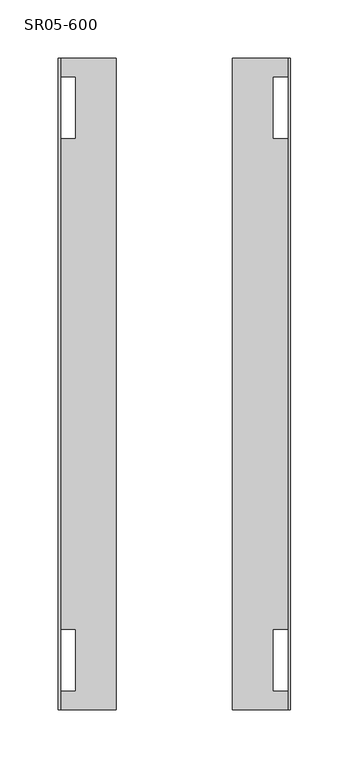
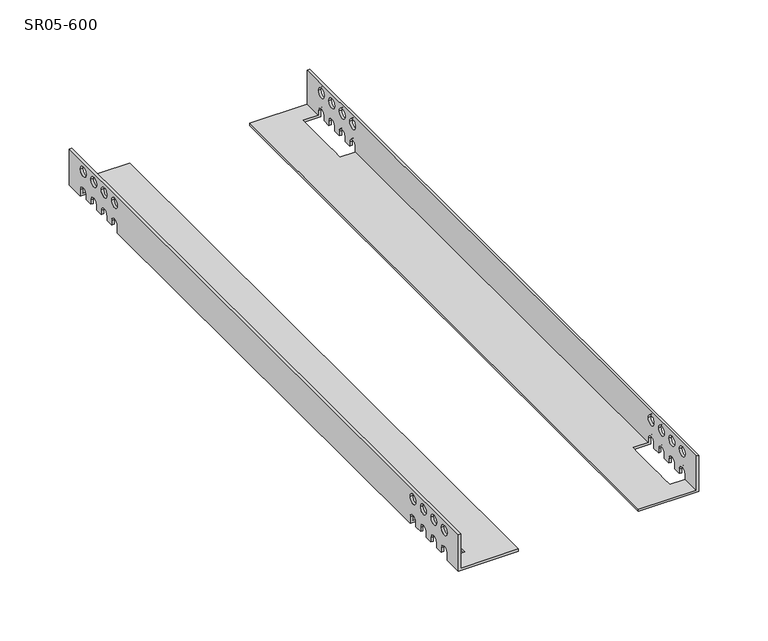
"""IFC4 building model written with IfcOpenShell, lengths in millimetres: proxy geometry, Уголки : SR05-600."""

from ifc_helpers import new_model, si_unit, frame, origin, place, context, project, spatial, polyline, circle_curve, source, transform, mapped, element, save
from ifc_brep_helpers import plane_surface, revolved_surface, advanced_brep


def sr05_600_75813493(model_context):
    return source(origin(), model_context, "Body", "AdvancedBrep", [
        advanced_brep(
        [(-98.0, -280.0, 32.0), (-100.0, -280.0, 32.0), (-100.0, -280.0, 0.0), (-50.0, -280.0, 0.0), (-50.0, -280.0, 2.0), (-98.0, -280.0, 2.0), (-98.0, 280.0, 32.0), (-98.0, 280.0, 2.0), (-50.0, 280.0, 2.0), (-50.0, 280.0, 0.0), (-100.0, 280.0, 0.0), (-100.0, 280.0, 32.0), (-100.0, 264.1733431, 0.0), (-100.0, 264.1733431, 5.925008), (-100.0, 255.8266569, 5.925008), (-100.0, 255.8266569, 2.0), (-100.0, 249.1733431, 2.0), (-100.0, 249.1733431, 5.925008), (-100.0, 240.8266569, 5.925008), (-100.0, 240.8266569, 2.0), (-100.0, 234.1733431, 2.0), (-100.0, 234.1733431, 5.925008), (-100.0, 225.8266569, 5.925008), (-100.0, 225.8266569, 2.0), (-100.0, 219.1733431, 2.0), (-100.0, 219.1733431, 5.925008), (-100.0, 210.8266569, 5.925008), (-100.0, 210.8266569, 0.0), (-100.0, -210.8266569, 0.0), (-100.0, -210.8266569, 5.925008), (-100.0, -219.1733431, 5.925008), (-100.0, -219.1733431, 2.0), (-100.0, -225.8266569, 2.0), (-100.0, -225.8266569, 5.925008), (-100.0, -234.1733431, 5.925008), (-100.0, -234.1733431, 2.0), (-100.0, -240.8266569, 2.0), (-100.0, -240.8266569, 5.925008), (-100.0, -249.1733431, 5.925008), (-100.0, -249.1733431, 2.0), (-100.0, -255.8266569, 2.0), (-100.0, -255.8266569, 5.925008), (-100.0, -264.1733431, 5.925008), (-100.0, -264.1733431, 0.0), (-100.0, -249.1733431, 24.0), (-100.0, -240.8266569, 24.0), (-100.0, -264.1733431, 24.0), (-100.0, -255.8266569, 24.0), (-100.0, -234.1733431, 24.0), (-100.0, -225.8266569, 24.0), (-100.0, -219.1733431, 24.0), (-100.0, -210.8266569, 24.0), (-100.0, 240.8266569, 24.0), (-100.0, 249.1733431, 24.0), (-100.0, 255.8266569, 24.0), (-100.0, 264.1733431, 24.0), (-100.0, 225.8266569, 24.0), (-100.0, 234.1733431, 24.0), (-100.0, 210.8266569, 24.0), (-100.0, 219.1733431, 24.0), (-85.0, -264.1733431, 0.0), (-85.0, -210.8266569, 0.0), (-85.0, 210.8266569, 0.0), (-85.0, 264.1733431, 0.0), (-98.0, 264.1733431, 2.0), (-85.0, 264.1733431, 2.0), (-85.0, 255.8266569, 2.0), (-85.0, 249.1733431, 2.0), (-85.0, 240.8266569, 2.0), (-85.0, 234.1733431, 2.0), (-85.0, 225.8266569, 2.0), (-85.0, 219.1733431, 2.0), (-85.0, 210.8266569, 2.0), (-98.0, 210.8266569, 2.0), (-98.0, -210.8266569, 2.0), (-85.0, -210.8266569, 2.0), (-85.0, -219.1733431, 2.0), (-85.0, -225.8266569, 2.0), (-85.0, -234.1733431, 2.0), (-85.0, -240.8266569, 2.0), (-85.0, -249.1733431, 2.0), (-85.0, -255.8266569, 2.0), (-85.0, -264.1733431, 2.0), (-98.0, -264.1733431, 2.0), (-98.0, -264.1733431, 5.925008), (-98.0, -255.8266569, 5.925008), (-98.0, -255.8266569, 2.0), (-98.0, -249.1733431, 2.0), (-98.0, -249.1733431, 5.925008), (-98.0, -240.8266569, 5.925008), (-98.0, -240.8266569, 2.0), (-98.0, -234.1733431, 2.0), (-98.0, -234.1733431, 5.925008), (-98.0, -225.8266569, 5.925008), (-98.0, -225.8266569, 2.0), (-98.0, -219.1733431, 2.0), (-98.0, -219.1733431, 5.925008), (-98.0, -210.8266569, 5.925008), (-98.0, 210.8266569, 5.925008), (-98.0, 219.1733431, 5.925008), (-98.0, 219.1733431, 2.0), (-98.0, 225.8266569, 2.0), (-98.0, 225.8266569, 5.925008), (-98.0, 234.1733431, 5.925008), (-98.0, 234.1733431, 2.0), (-98.0, 240.8266569, 2.0), (-98.0, 240.8266569, 5.925008), (-98.0, 249.1733431, 5.925008), (-98.0, 249.1733431, 2.0), (-98.0, 255.8266569, 2.0), (-98.0, 255.8266569, 5.925008), (-98.0, 264.1733431, 5.925008), (-98.0, -240.8266569, 24.0), (-98.0, -249.1733431, 24.0), (-98.0, -255.8266569, 24.0), (-98.0, -264.1733431, 24.0), (-98.0, -225.8266569, 24.0), (-98.0, -234.1733431, 24.0), (-98.0, -210.8266569, 24.0), (-98.0, -219.1733431, 24.0), (-98.0, 249.1733431, 24.0), (-98.0, 240.8266569, 24.0), (-98.0, 264.1733431, 24.0), (-98.0, 255.8266569, 24.0), (-98.0, 234.1733431, 24.0), (-98.0, 225.8266569, 24.0), (-98.0, 219.1733431, 24.0), (-98.0, 210.8266569, 24.0)],
        [
            (0, 1),
            (1, 2),
            (2, 3),
            (3, 4),
            (4, 5),
            (5, 0),
            (6, 7),
            (7, 8),
            (8, 9),
            (9, 10),
            (10, 11),
            (11, 6),
            (0, 6),
            (11, 1),
            (10, 12),
            (12, 13),
            (13, 14, circle_curve(frame((-100.0, 260.0, 5.925008), z_axis=(1.0, 0.0, 0.0), x_axis=(0.0, -1.0, 0.0)), 4.1733431)),
            (14, 15),
            (15, 16),
            (16, 17),
            (17, 18, circle_curve(frame((-100.0, 245.0, 5.925008), z_axis=(1.0, 0.0, 0.0), x_axis=(0.0, -1.0, 0.0)), 4.1733431)),
            (18, 19),
            (19, 20),
            (20, 21),
            (21, 22, circle_curve(frame((-100.0, 230.0, 5.925008), z_axis=(1.0, 0.0, 0.0), x_axis=(0.0, -1.0, 0.0)), 4.1733431)),
            (22, 23),
            (23, 24),
            (24, 25),
            (25, 26, circle_curve(frame((-100.0, 215.0, 5.925008), z_axis=(1.0, 0.0, 0.0), x_axis=(0.0, -1.0, 0.0)), 4.1733431)),
            (26, 27),
            (27, 28),
            (28, 29),
            (29, 30, circle_curve(frame((-100.0, -215.0, 5.925008), z_axis=(1.0, 0.0, 0.0), x_axis=(0.0, -1.0, 0.0)), 4.1733431)),
            (30, 31),
            (31, 32),
            (32, 33),
            (33, 34, circle_curve(frame((-100.0, -230.0, 5.925008), z_axis=(1.0, 0.0, 0.0), x_axis=(0.0, -1.0, 0.0)), 4.1733431)),
            (34, 35),
            (35, 36),
            (36, 37),
            (37, 38, circle_curve(frame((-100.0, -245.0, 5.925008), z_axis=(1.0, 0.0, 0.0), x_axis=(0.0, -1.0, 0.0)), 4.1733431)),
            (38, 39),
            (39, 40),
            (40, 41),
            (41, 42, circle_curve(frame((-100.0, -260.0, 5.925008), z_axis=(1.0, 0.0, 0.0), x_axis=(0.0, -1.0, 0.0)), 4.1733431)),
            (42, 43),
            (43, 2),
            (44, 45, circle_curve(frame((-100.0, -245.0, 24.0), z_axis=(1.0, 0.0, 0.0), x_axis=(0.0, -1.0, 0.0)), 4.1733431)),
            (45, 44, circle_curve(frame((-100.0, -245.0, 24.0), z_axis=(1.0, 0.0, 0.0), x_axis=(0.0, -1.0, 0.0)), 4.1733431)),
            (46, 47, circle_curve(frame((-100.0, -260.0, 24.0), z_axis=(1.0, 0.0, 0.0), x_axis=(0.0, -1.0, 0.0)), 4.1733431)),
            (47, 46, circle_curve(frame((-100.0, -260.0, 24.0), z_axis=(1.0, 0.0, 0.0), x_axis=(0.0, -1.0, 0.0)), 4.1733431)),
            (48, 49, circle_curve(frame((-100.0, -230.0, 24.0), z_axis=(1.0, 0.0, 0.0), x_axis=(0.0, -1.0, 0.0)), 4.1733431)),
            (49, 48, circle_curve(frame((-100.0, -230.0, 24.0), z_axis=(1.0, 0.0, 0.0), x_axis=(0.0, -1.0, 0.0)), 4.1733431)),
            (50, 51, circle_curve(frame((-100.0, -215.0, 24.0), z_axis=(1.0, 0.0, 0.0), x_axis=(0.0, -1.0, 0.0)), 4.1733431)),
            (51, 50, circle_curve(frame((-100.0, -215.0, 24.0), z_axis=(1.0, 0.0, 0.0), x_axis=(0.0, -1.0, 0.0)), 4.1733431)),
            (52, 53, circle_curve(frame((-100.0, 245.0, 24.0), z_axis=(1.0, 0.0, 0.0), x_axis=(0.0, -1.0, 0.0)), 4.1733431)),
            (53, 52, circle_curve(frame((-100.0, 245.0, 24.0), z_axis=(1.0, 0.0, 0.0), x_axis=(0.0, -1.0, 0.0)), 4.1733431)),
            (54, 55, circle_curve(frame((-100.0, 260.0, 24.0), z_axis=(1.0, 0.0, 0.0), x_axis=(0.0, -1.0, 0.0)), 4.1733431)),
            (55, 54, circle_curve(frame((-100.0, 260.0, 24.0), z_axis=(1.0, 0.0, 0.0), x_axis=(0.0, -1.0, 0.0)), 4.1733431)),
            (56, 57, circle_curve(frame((-100.0, 230.0, 24.0), z_axis=(1.0, 0.0, 0.0), x_axis=(0.0, -1.0, 0.0)), 4.1733431)),
            (57, 56, circle_curve(frame((-100.0, 230.0, 24.0), z_axis=(1.0, 0.0, 0.0), x_axis=(0.0, -1.0, 0.0)), 4.1733431)),
            (58, 59, circle_curve(frame((-100.0, 215.0, 24.0), z_axis=(1.0, 0.0, 0.0), x_axis=(0.0, -1.0, 0.0)), 4.1733431)),
            (59, 58, circle_curve(frame((-100.0, 215.0, 24.0), z_axis=(1.0, 0.0, 0.0), x_axis=(0.0, -1.0, 0.0)), 4.1733431)),
            (43, 60),
            (60, 61),
            (61, 28),
            (27, 62),
            (62, 63),
            (63, 12),
            (9, 3),
            (8, 4),
            (7, 64),
            (64, 65),
            (65, 66),
            (66, 67),
            (67, 68),
            (68, 69),
            (69, 70),
            (70, 71),
            (71, 72),
            (72, 73),
            (73, 74),
            (74, 75),
            (75, 76),
            (76, 77),
            (77, 78),
            (78, 79),
            (79, 80),
            (80, 81),
            (81, 82),
            (82, 83),
            (83, 5),
            (83, 84),
            (84, 85, circle_curve(frame((-98.0, -260.0, 5.925008), z_axis=(-1.0, 0.0, 0.0), x_axis=(0.0, -1.0, 0.0)), 4.1733431)),
            (85, 86),
            (86, 87),
            (87, 88),
            (88, 89, circle_curve(frame((-98.0, -245.0, 5.925008), z_axis=(-1.0, 0.0, 0.0), x_axis=(0.0, -1.0, 0.0)), 4.1733431)),
            (89, 90),
            (90, 91),
            (91, 92),
            (92, 93, circle_curve(frame((-98.0, -230.0, 5.925008), z_axis=(-1.0, 0.0, 0.0), x_axis=(0.0, -1.0, 0.0)), 4.1733431)),
            (93, 94),
            (94, 95),
            (95, 96),
            (96, 97, circle_curve(frame((-98.0, -215.0, 5.925008), z_axis=(-1.0, 0.0, 0.0), x_axis=(0.0, -1.0, 0.0)), 4.1733431)),
            (97, 74),
            (73, 98),
            (98, 99, circle_curve(frame((-98.0, 215.0, 5.925008), z_axis=(-1.0, 0.0, 0.0), x_axis=(0.0, -1.0, 0.0)), 4.1733431)),
            (99, 100),
            (100, 101),
            (101, 102),
            (102, 103, circle_curve(frame((-98.0, 230.0, 5.925008), z_axis=(-1.0, 0.0, 0.0), x_axis=(0.0, -1.0, 0.0)), 4.1733431)),
            (103, 104),
            (104, 105),
            (105, 106),
            (106, 107, circle_curve(frame((-98.0, 245.0, 5.925008), z_axis=(-1.0, 0.0, 0.0), x_axis=(0.0, -1.0, 0.0)), 4.1733431)),
            (107, 108),
            (108, 109),
            (109, 110),
            (110, 111, circle_curve(frame((-98.0, 260.0, 5.925008), z_axis=(-1.0, 0.0, 0.0), x_axis=(0.0, -1.0, 0.0)), 4.1733431)),
            (111, 64),
            (112, 113, circle_curve(frame((-98.0, -245.0, 24.0), z_axis=(-1.0, 0.0, 0.0), x_axis=(0.0, -1.0, 0.0)), 4.1733431)),
            (113, 112, circle_curve(frame((-98.0, -245.0, 24.0), z_axis=(-1.0, 0.0, 0.0), x_axis=(0.0, -1.0, 0.0)), 4.1733431)),
            (114, 115, circle_curve(frame((-98.0, -260.0, 24.0), z_axis=(-1.0, 0.0, 0.0), x_axis=(0.0, -1.0, 0.0)), 4.1733431)),
            (115, 114, circle_curve(frame((-98.0, -260.0, 24.0), z_axis=(-1.0, 0.0, 0.0), x_axis=(0.0, -1.0, 0.0)), 4.1733431)),
            (116, 117, circle_curve(frame((-98.0, -230.0, 24.0), z_axis=(-1.0, 0.0, 0.0), x_axis=(0.0, -1.0, 0.0)), 4.1733431)),
            (117, 116, circle_curve(frame((-98.0, -230.0, 24.0), z_axis=(-1.0, 0.0, 0.0), x_axis=(0.0, -1.0, 0.0)), 4.1733431)),
            (118, 119, circle_curve(frame((-98.0, -215.0, 24.0), z_axis=(-1.0, 0.0, 0.0), x_axis=(0.0, -1.0, 0.0)), 4.1733431)),
            (119, 118, circle_curve(frame((-98.0, -215.0, 24.0), z_axis=(-1.0, 0.0, 0.0), x_axis=(0.0, -1.0, 0.0)), 4.1733431)),
            (120, 121, circle_curve(frame((-98.0, 245.0, 24.0), z_axis=(-1.0, 0.0, 0.0), x_axis=(0.0, -1.0, 0.0)), 4.1733431)),
            (121, 120, circle_curve(frame((-98.0, 245.0, 24.0), z_axis=(-1.0, 0.0, 0.0), x_axis=(0.0, -1.0, 0.0)), 4.1733431)),
            (122, 123, circle_curve(frame((-98.0, 260.0, 24.0), z_axis=(-1.0, 0.0, 0.0), x_axis=(0.0, -1.0, 0.0)), 4.1733431)),
            (123, 122, circle_curve(frame((-98.0, 260.0, 24.0), z_axis=(-1.0, 0.0, 0.0), x_axis=(0.0, -1.0, 0.0)), 4.1733431)),
            (124, 125, circle_curve(frame((-98.0, 230.0, 24.0), z_axis=(-1.0, 0.0, 0.0), x_axis=(0.0, -1.0, 0.0)), 4.1733431)),
            (125, 124, circle_curve(frame((-98.0, 230.0, 24.0), z_axis=(-1.0, 0.0, 0.0), x_axis=(0.0, -1.0, 0.0)), 4.1733431)),
            (126, 127, circle_curve(frame((-98.0, 215.0, 24.0), z_axis=(-1.0, 0.0, 0.0), x_axis=(0.0, -1.0, 0.0)), 4.1733431)),
            (127, 126, circle_curve(frame((-98.0, 215.0, 24.0), z_axis=(-1.0, 0.0, 0.0), x_axis=(0.0, -1.0, 0.0)), 4.1733431)),
            (75, 61),
            (60, 82),
            (65, 63),
            (62, 72),
            (112, 45),
            (44, 113),
            (114, 47),
            (46, 115),
            (116, 49),
            (48, 117),
            (118, 51),
            (50, 119),
            (120, 53),
            (52, 121),
            (122, 55),
            (54, 123),
            (124, 57),
            (56, 125),
            (126, 59),
            (58, 127),
            (95, 31),
            (30, 96),
            (29, 97),
            (91, 35),
            (34, 92),
            (33, 93),
            (32, 94),
            (87, 39),
            (38, 88),
            (37, 89),
            (36, 90),
            (42, 84),
            (41, 85),
            (40, 86),
            (23, 101),
            (100, 24),
            (22, 102),
            (21, 103),
            (20, 104),
            (19, 105),
            (18, 106),
            (17, 107),
            (16, 108),
            (15, 109),
            (14, 110),
            (13, 111),
            (26, 98),
            (25, 99),
        ],
        [
            plane_surface(frame((-100.0, -280.0, 32.0), z_axis=(0.0, -1.0, 0.0), x_axis=(-1.0, 0.0, 0.0))),
            plane_surface(frame((-100.0, 280.0, 32.0), z_axis=(0.0, 1.0, 0.0), x_axis=(1.0, 0.0, 0.0))),
            plane_surface(frame((-98.0, -280.0, 32.0), z_axis=(0.0, 0.0, 1.0), x_axis=(0.0, 1.0, 0.0))),
            plane_surface(frame((-100.0, -280.0, 32.0), z_axis=(-1.0, 0.0, 0.0), x_axis=(0.0, 1.0, 0.0))),
            plane_surface(frame((-100.0, -280.0, 0.0), z_axis=(0.0, 0.0, -1.0), x_axis=(0.0, 1.0, 0.0))),
            plane_surface(frame((-50.0, -280.0, 0.0), z_axis=(1.0, 0.0, 0.0), x_axis=(0.0, 1.0, 0.0))),
            plane_surface(frame((-50.0, -280.0, 2.0), z_axis=(0.0, 0.0, 1.0), x_axis=(0.0, 1.0, 0.0))),
            plane_surface(frame((-98.0, -280.0, 2.0), z_axis=(1.0, 0.0, 0.0), x_axis=(0.0, 1.0, 0.0))),
            plane_surface(frame((-85.0, -249.1733431, 24.0), z_axis=(-1.0, 0.0, 0.0), x_axis=(0.0, 0.0, -1.0))),
            revolved_surface(polyline([(-100.0, -249.1733431, 24.0), (-98.0, -249.1733431, 24.0)]), (-85.0, -245.0, 24.0), (-1.0, 0.0, 0.0)),
            revolved_surface(polyline([(-100.0, -264.1733431, 24.0), (-98.0, -264.1733431, 24.0)]), (-100.0, -260.0, 24.0), (-1.0, 0.0, 0.0)),
            revolved_surface(polyline([(-100.0, -234.1733431, 24.0), (-98.0, -234.1733431, 24.0)]), (-100.0, -230.0, 24.0), (-1.0, 0.0, 0.0)),
            revolved_surface(polyline([(-100.0, -219.1733431, 24.0), (-98.0, -219.1733431, 24.0)]), (-100.0, -215.0, 24.0), (-1.0, 0.0, 0.0)),
            revolved_surface(polyline([(-100.0, 240.8266569, 24.0), (-98.0, 240.8266569, 24.0)]), (-100.0, 245.0, 24.0), (-1.0, 0.0, 0.0)),
            revolved_surface(polyline([(-100.0, 255.8266569, 24.0), (-98.0, 255.8266569, 24.0)]), (-100.0, 260.0, 24.0), (-1.0, 0.0, 0.0)),
            revolved_surface(polyline([(-100.0, 225.8266569, 24.0), (-98.0, 225.8266569, 24.0)]), (-100.0, 230.0, 24.0), (-1.0, 0.0, 0.0)),
            revolved_surface(polyline([(-100.0, 210.8266569, 24.0), (-98.0, 210.8266569, 24.0)]), (-100.0, 215.0, 24.0), (-1.0, 0.0, 0.0)),
            plane_surface(frame((-100.0, -219.1733431, 2.0), z_axis=(0.0, 1.0, 0.0), x_axis=(1.0, 0.0, 0.0))),
            revolved_surface(polyline([(-100.0, -219.1733431, 5.925008), (-98.0, -219.1733431, 5.925008)]), (-100.0, -215.0, 5.925008), (-1.0, 0.0, 0.0)),
            plane_surface(frame((-100.0, -210.8266569, 5.925008), z_axis=(0.0, -1.0, 0.0), x_axis=(1.0, 0.0, 0.0))),
            plane_surface(frame((-100.0, -234.1733431, 2.0), z_axis=(0.0, 1.0, 0.0), x_axis=(1.0, 0.0, 0.0))),
            revolved_surface(polyline([(-100.0, -234.1733431, 5.925008), (-98.0, -234.1733431, 5.925008)]), (-100.0, -230.0, 5.925008), (-1.0, 0.0, 0.0)),
            plane_surface(frame((-100.0, -225.8266569, 5.925008), z_axis=(0.0, -1.0, 0.0), x_axis=(1.0, 0.0, 0.0))),
            plane_surface(frame((-100.0, -225.8266569, 2.0), z_axis=(0.0, 0.0, -1.0), x_axis=(1.0, 0.0, 0.0))),
            plane_surface(frame((-100.0, -249.1733431, 2.0), z_axis=(0.0, 1.0, 1.2673657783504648e-11), x_axis=(1.0, 0.0, 0.0))),
            revolved_surface(polyline([(-100.0, -249.1733431, 5.925008), (-98.0, -249.1733431, 5.925008)]), (-100.0, -245.0, 5.925008), (-1.0, 0.0, 0.0)),
            plane_surface(frame((-100.0, -240.8266569, 5.925008), z_axis=(0.0, -1.0, 0.0), x_axis=(1.0, 0.0, 0.0))),
            plane_surface(frame((-100.0, -240.8266569, 2.0), z_axis=(0.0, 0.0, -1.0), x_axis=(1.0, 0.0, 0.0))),
            plane_surface(frame((-100.0, -264.1733431, 0.0), z_axis=(0.0, 1.0, 0.0), x_axis=(1.0, 0.0, 0.0))),
            revolved_surface(polyline([(-100.0, -264.1733431, 5.925008), (-98.0, -264.1733431, 5.925008)]), (-100.0, -260.0, 5.925008), (-1.0, 0.0, 0.0)),
            plane_surface(frame((-100.0, -255.8266569, 5.925008), z_axis=(0.0, -1.0, 0.0), x_axis=(1.0, 0.0, 0.0))),
            plane_surface(frame((-100.0, -255.8266569, 2.0), z_axis=(0.0, 0.0, -1.0), x_axis=(1.0, 0.0, 0.0))),
            plane_surface(frame((-100.0, 219.1733431, 2.0), z_axis=(0.0, 0.0, -1.0), x_axis=(1.0, 0.0, 0.0))),
            plane_surface(frame((-100.0, 225.8266569, 2.0), z_axis=(0.0, 1.0, 0.0), x_axis=(1.0, 0.0, 0.0))),
            revolved_surface(polyline([(-100.0, 225.8266569, 5.925008), (-98.0, 225.8266569, 5.925008)]), (-100.0, 230.0, 5.925008), (-1.0, 0.0, 0.0)),
            plane_surface(frame((-100.0, 234.1733431, 5.925008), z_axis=(0.0, -1.0, 0.0), x_axis=(1.0, 0.0, 0.0))),
            plane_surface(frame((-100.0, 234.1733431, 2.0), z_axis=(0.0, 0.0, -1.0), x_axis=(1.0, 0.0, 0.0))),
            plane_surface(frame((-100.0, 240.8266569, 2.0), z_axis=(0.0, 1.0, 0.0), x_axis=(1.0, 0.0, 0.0))),
            revolved_surface(polyline([(-100.0, 240.8266569, 5.925008), (-98.0, 240.8266569, 5.925008)]), (-100.0, 245.0, 5.925008), (-1.0, 0.0, 0.0)),
            plane_surface(frame((-100.0, 249.1733431, 5.925008), z_axis=(0.0, -1.0, -5.586755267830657e-12), x_axis=(1.0, 0.0, 0.0))),
            plane_surface(frame((-100.0, 249.1733431, 2.0), z_axis=(0.0, 0.0, -1.0), x_axis=(1.0, 0.0, 0.0))),
            plane_surface(frame((-100.0, 255.8266569, 2.0), z_axis=(0.0, 1.0, 0.0), x_axis=(1.0, 0.0, 0.0))),
            revolved_surface(polyline([(-100.0, 255.8266569, 5.925008), (-98.0, 255.8266569, 5.925008)]), (-100.0, 260.0, 5.925008), (-1.0, 0.0, 0.0)),
            plane_surface(frame((-100.0, 264.1733431, 5.925008), z_axis=(0.0, -1.0, 0.0), x_axis=(1.0, 0.0, 0.0))),
            plane_surface(frame((-100.0, 210.8266569, 0.0), z_axis=(0.0, 1.0, 0.0), x_axis=(1.0, 0.0, 0.0))),
            revolved_surface(polyline([(-100.0, 210.8266569, 5.925008), (-98.0, 210.8266569, 5.925008)]), (-100.0, 215.0, 5.925008), (-1.0, 0.0, 0.0)),
            plane_surface(frame((-100.0, 219.1733431, 5.925008), z_axis=(0.0, -1.0, 0.0), x_axis=(1.0, 0.0, 0.0))),
        ],
        [
            (0, [[1, 2, 3, 4, 5, 6]]),
            (1, [[7, 8, 9, 10, 11, 12]]),
            (2, [[-1, 13, -12, 14]]),
            (3, [[-2, -14, -11, 15, 16, 17, 18, 19, 20, 21, 22, 23, 24, 25, 26, 27, 28, 29, 30, 31, 32, 33, 34, 35, 36, 37, 38, 39, 40, 41, 42, 43, 44, 45, 46, 47], [48, 49], [50, 51], [52, 53], [54, 55], [56, 57], [58, 59], [60, 61], [62, 63]]),
            (4, [[-3, -47, 64, 65, 66, -31, 67, 68, 69, -15, -10, 70]]),
            (5, [[-4, -70, -9, 71]]),
            (6, [[-5, -71, -8, 72, 73, 74, 75, 76, 77, 78, 79, 80, 81, 82, 83, 84, 85, 86, 87, 88, 89, 90, 91, 92]]),
            (7, [[-6, -92, 93, 94, 95, 96, 97, 98, 99, 100, 101, 102, 103, 104, 105, 106, 107, -82, 108, 109, 110, 111, 112, 113, 114, 115, 116, 117, 118, 119, 120, 121, 122, -72, -7, -13], [123, 124], [125, 126], [127, 128], [129, 130], [131, 132], [133, 134], [135, 136], [137, 138]]),
            (8, [[139, -65, 140, -90, -89, -88, -87, -86, -85, -84]]),
            (8, [[141, -68, 142, -80, -79, -78, -77, -76, -75, -74]]),
            (9, [[143, -48, 144, -123]]),
            (9, [[-143, -124, -144, -49]]),
            (10, [[145, -50, 146, -125]]),
            (10, [[-145, -126, -146, -51]]),
            (11, [[147, -52, 148, -127]]),
            (11, [[-147, -128, -148, -53]]),
            (12, [[149, -54, 150, -129]]),
            (12, [[-149, -130, -150, -55]]),
            (13, [[151, -56, 152, -131]]),
            (13, [[-151, -132, -152, -57]]),
            (14, [[153, -58, 154, -133]]),
            (14, [[-153, -134, -154, -59]]),
            (15, [[155, -60, 156, -135]]),
            (15, [[-155, -136, -156, -61]]),
            (16, [[157, -62, 158, -137]]),
            (16, [[-157, -138, -158, -63]]),
            (17, [[159, -34, 160, -105]]),
            (18, [[-160, -33, 161, -106]]),
            (19, [[-139, -83, -107, -161, -32, -66]]),
            (20, [[162, -38, 163, -101]]),
            (21, [[-163, -37, 164, -102]]),
            (22, [[165, -103, -164, -36]]),
            (23, [[-159, -104, -165, -35]]),
            (24, [[166, -42, 167, -97]]),
            (25, [[-167, -41, 168, -98]]),
            (26, [[169, -99, -168, -40]]),
            (27, [[-162, -100, -169, -39]]),
            (28, [[-140, -64, -46, 170, -93, -91]]),
            (29, [[-170, -45, 171, -94]]),
            (30, [[172, -95, -171, -44]]),
            (31, [[-166, -96, -172, -43]]),
            (32, [[173, -111, 174, -27]]),
            (33, [[-173, -26, 175, -112]]),
            (34, [[-175, -25, 176, -113]]),
            (35, [[177, -114, -176, -24]]),
            (36, [[-177, -23, 178, -115]]),
            (37, [[-178, -22, 179, -116]]),
            (38, [[-179, -21, 180, -117]]),
            (39, [[181, -118, -180, -20]]),
            (40, [[-181, -19, 182, -119]]),
            (41, [[-182, -18, 183, -120]]),
            (42, [[-183, -17, 184, -121]]),
            (43, [[-141, -73, -122, -184, -16, -69]]),
            (44, [[-142, -67, -30, 185, -108, -81]]),
            (45, [[-185, -29, 186, -109]]),
            (46, [[-174, -110, -186, -28]]),
        ],
    ),
        advanced_brep(
        [(98.0, -280.0, 32.0), (98.0, -280.0, 2.0), (50.0, -280.0, 2.0), (50.0, -280.0, 0.0), (100.0, -280.0, 0.0), (100.0, -280.0, 32.0), (98.0, 280.0, 32.0), (100.0, 280.0, 32.0), (100.0, 280.0, 0.0), (50.0, 280.0, 0.0), (50.0, 280.0, 2.0), (98.0, 280.0, 2.0), (98.0, 264.1733431, 2.0), (98.0, 264.1733431, 5.925008), (98.0, 255.8266569, 5.925008), (98.0, 255.8266569, 2.0), (98.0, 249.1733431, 2.0), (98.0, 249.1733431, 5.925008), (98.0, 240.8266569, 5.925008), (98.0, 240.8266569, 2.0), (98.0, 234.1733431, 2.0), (98.0, 234.1733431, 5.925008), (98.0, 225.8266569, 5.925008), (98.0, 225.8266569, 2.0), (98.0, 219.1733431, 2.0), (98.0, 219.1733431, 5.925008), (98.0, 210.8266569, 5.925008), (98.0, 210.8266569, 2.0), (98.0, -210.8266569, 2.0), (98.0, -210.8266569, 5.925008), (98.0, -219.1733431, 5.925008), (98.0, -219.1733431, 2.0), (98.0, -225.8266569, 2.0), (98.0, -225.8266569, 5.925008), (98.0, -234.1733431, 5.925008), (98.0, -234.1733431, 2.0), (98.0, -240.8266569, 2.0), (98.0, -240.8266569, 5.925008), (98.0, -249.1733431, 5.925008), (98.0, -249.1733431, 2.0), (98.0, -255.8266569, 2.0), (98.0, -255.8266569, 5.925008), (98.0, -264.1733431, 5.925008), (98.0, -264.1733431, 2.0), (98.0, -249.1733431, 24.0), (98.0, -240.8266569, 24.0), (98.0, -264.1733431, 24.0), (98.0, -255.8266569, 24.0), (98.0, -234.1733431, 24.0), (98.0, -225.8266569, 24.0), (98.0, -219.1733431, 24.0), (98.0, -210.8266569, 24.0), (98.0, 240.8266569, 24.0), (98.0, 249.1733431, 24.0), (98.0, 255.8266569, 24.0), (98.0, 264.1733431, 24.0), (98.0, 225.8266569, 24.0), (98.0, 234.1733431, 24.0), (98.0, 210.8266569, 24.0), (98.0, 219.1733431, 24.0), (85.0, -264.1733431, 2.0), (85.0, -255.8266569, 2.0), (85.0, -249.1733431, 2.0), (85.0, -240.8266569, 2.0), (85.0, -234.1733431, 2.0), (85.0, -225.8266569, 2.0), (85.0, -219.1733431, 2.0), (85.0, -210.8266569, 2.0), (85.0, 210.8266569, 2.0), (85.0, 219.1733431, 2.0), (85.0, 225.8266569, 2.0), (85.0, 234.1733431, 2.0), (85.0, 240.8266569, 2.0), (85.0, 249.1733431, 2.0), (85.0, 255.8266569, 2.0), (85.0, 264.1733431, 2.0), (100.0, 264.1733431, 0.0), (85.0, 264.1733431, 0.0), (85.0, 210.8266569, 0.0), (100.0, 210.8266569, 0.0), (100.0, -210.8266569, 0.0), (85.0, -210.8266569, 0.0), (85.0, -264.1733431, 0.0), (100.0, -264.1733431, 0.0), (100.0, -264.1733431, 5.925008), (100.0, -255.8266569, 5.925008), (100.0, -255.8266569, 2.0), (100.0, -249.1733431, 2.0), (100.0, -249.1733431, 5.925008), (100.0, -240.8266569, 5.925008), (100.0, -240.8266569, 2.0), (100.0, -234.1733431, 2.0), (100.0, -234.1733431, 5.925008), (100.0, -225.8266569, 5.925008), (100.0, -225.8266569, 2.0), (100.0, -219.1733431, 2.0), (100.0, -219.1733431, 5.925008), (100.0, -210.8266569, 5.925008), (100.0, 210.8266569, 5.925008), (100.0, 219.1733431, 5.925008), (100.0, 219.1733431, 2.0), (100.0, 225.8266569, 2.0), (100.0, 225.8266569, 5.925008), (100.0, 234.1733431, 5.925008), (100.0, 234.1733431, 2.0), (100.0, 240.8266569, 2.0), (100.0, 240.8266569, 5.925008), (100.0, 249.1733431, 5.925008), (100.0, 249.1733431, 2.0), (100.0, 255.8266569, 2.0), (100.0, 255.8266569, 5.925008), (100.0, 264.1733431, 5.925008), (100.0, -240.8266569, 24.0), (100.0, -249.1733431, 24.0), (100.0, -255.8266569, 24.0), (100.0, -264.1733431, 24.0), (100.0, -225.8266569, 24.0), (100.0, -234.1733431, 24.0), (100.0, -210.8266569, 24.0), (100.0, -219.1733431, 24.0), (100.0, 249.1733431, 24.0), (100.0, 240.8266569, 24.0), (100.0, 264.1733431, 24.0), (100.0, 255.8266569, 24.0), (100.0, 234.1733431, 24.0), (100.0, 225.8266569, 24.0), (100.0, 219.1733431, 24.0), (100.0, 210.8266569, 24.0)],
        [
            (0, 1),
            (1, 2),
            (2, 3),
            (3, 4),
            (4, 5),
            (5, 0),
            (6, 7),
            (7, 8),
            (8, 9),
            (9, 10),
            (10, 11),
            (11, 6),
            (0, 6),
            (11, 12),
            (12, 13),
            (13, 14, circle_curve(frame((98.0, 260.0, 5.925008), z_axis=(1.0, 0.0, 0.0), x_axis=(0.0, -1.0, 0.0)), 4.1733431)),
            (14, 15),
            (15, 16),
            (16, 17),
            (17, 18, circle_curve(frame((98.0, 245.0, 5.925008), z_axis=(1.0, 0.0, 0.0), x_axis=(0.0, -1.0, 0.0)), 4.1733431)),
            (18, 19),
            (19, 20),
            (20, 21),
            (21, 22, circle_curve(frame((98.0, 230.0, 5.925008), z_axis=(1.0, 0.0, 0.0), x_axis=(0.0, -1.0, 0.0)), 4.1733431)),
            (22, 23),
            (23, 24),
            (24, 25),
            (25, 26, circle_curve(frame((98.0, 215.0, 5.925008), z_axis=(1.0, 0.0, 0.0), x_axis=(0.0, -1.0, 0.0)), 4.1733431)),
            (26, 27),
            (27, 28),
            (28, 29),
            (29, 30, circle_curve(frame((98.0, -215.0, 5.925008), z_axis=(1.0, 0.0, 0.0), x_axis=(0.0, -1.0, 0.0)), 4.1733431)),
            (30, 31),
            (31, 32),
            (32, 33),
            (33, 34, circle_curve(frame((98.0, -230.0, 5.925008), z_axis=(1.0, 0.0, 0.0), x_axis=(0.0, -1.0, 0.0)), 4.1733431)),
            (34, 35),
            (35, 36),
            (36, 37),
            (37, 38, circle_curve(frame((98.0, -245.0, 5.925008), z_axis=(1.0, 0.0, 0.0), x_axis=(0.0, -1.0, 0.0)), 4.1733431)),
            (38, 39),
            (39, 40),
            (40, 41),
            (41, 42, circle_curve(frame((98.0, -260.0, 5.925008), z_axis=(1.0, 0.0, 0.0), x_axis=(0.0, -1.0, 0.0)), 4.1733431)),
            (42, 43),
            (43, 1),
            (44, 45, circle_curve(frame((98.0, -245.0, 24.0), z_axis=(1.0, 0.0, 0.0), x_axis=(0.0, -1.0, 0.0)), 4.1733431)),
            (45, 44, circle_curve(frame((98.0, -245.0, 24.0), z_axis=(1.0, 0.0, 0.0), x_axis=(0.0, -1.0, 0.0)), 4.1733431)),
            (46, 47, circle_curve(frame((98.0, -260.0, 24.0), z_axis=(1.0, 0.0, 0.0), x_axis=(0.0, -1.0, 0.0)), 4.1733431)),
            (47, 46, circle_curve(frame((98.0, -260.0, 24.0), z_axis=(1.0, 0.0, 0.0), x_axis=(0.0, -1.0, 0.0)), 4.1733431)),
            (48, 49, circle_curve(frame((98.0, -230.0, 24.0), z_axis=(1.0, 0.0, 0.0), x_axis=(0.0, -1.0, 0.0)), 4.1733431)),
            (49, 48, circle_curve(frame((98.0, -230.0, 24.0), z_axis=(1.0, 0.0, 0.0), x_axis=(0.0, -1.0, 0.0)), 4.1733431)),
            (50, 51, circle_curve(frame((98.0, -215.0, 24.0), z_axis=(1.0, 0.0, 0.0), x_axis=(0.0, -1.0, 0.0)), 4.1733431)),
            (51, 50, circle_curve(frame((98.0, -215.0, 24.0), z_axis=(1.0, 0.0, 0.0), x_axis=(0.0, -1.0, 0.0)), 4.1733431)),
            (52, 53, circle_curve(frame((98.0, 245.0, 24.0), z_axis=(1.0, 0.0, 0.0), x_axis=(0.0, -1.0, 0.0)), 4.1733431)),
            (53, 52, circle_curve(frame((98.0, 245.0, 24.0), z_axis=(1.0, 0.0, 0.0), x_axis=(0.0, -1.0, 0.0)), 4.1733431)),
            (54, 55, circle_curve(frame((98.0, 260.0, 24.0), z_axis=(1.0, 0.0, 0.0), x_axis=(0.0, -1.0, 0.0)), 4.1733431)),
            (55, 54, circle_curve(frame((98.0, 260.0, 24.0), z_axis=(1.0, 0.0, 0.0), x_axis=(0.0, -1.0, 0.0)), 4.1733431)),
            (56, 57, circle_curve(frame((98.0, 230.0, 24.0), z_axis=(1.0, 0.0, 0.0), x_axis=(0.0, -1.0, 0.0)), 4.1733431)),
            (57, 56, circle_curve(frame((98.0, 230.0, 24.0), z_axis=(1.0, 0.0, 0.0), x_axis=(0.0, -1.0, 0.0)), 4.1733431)),
            (58, 59, circle_curve(frame((98.0, 215.0, 24.0), z_axis=(1.0, 0.0, 0.0), x_axis=(0.0, -1.0, 0.0)), 4.1733431)),
            (59, 58, circle_curve(frame((98.0, 215.0, 24.0), z_axis=(1.0, 0.0, 0.0), x_axis=(0.0, -1.0, 0.0)), 4.1733431)),
            (43, 60),
            (60, 61),
            (61, 62),
            (62, 63),
            (63, 64),
            (64, 65),
            (65, 66),
            (66, 67),
            (67, 28),
            (27, 68),
            (68, 69),
            (69, 70),
            (70, 71),
            (71, 72),
            (72, 73),
            (73, 74),
            (74, 75),
            (75, 12),
            (10, 2),
            (9, 3),
            (8, 76),
            (76, 77),
            (77, 78),
            (78, 79),
            (79, 80),
            (80, 81),
            (81, 82),
            (82, 83),
            (83, 4),
            (83, 84),
            (84, 85, circle_curve(frame((100.0, -260.0, 5.925008), z_axis=(-1.0, 0.0, 0.0), x_axis=(0.0, -1.0, 0.0)), 4.1733431)),
            (85, 86),
            (86, 87),
            (87, 88),
            (88, 89, circle_curve(frame((100.0, -245.0, 5.925008), z_axis=(-1.0, 0.0, 0.0), x_axis=(0.0, -1.0, 0.0)), 4.1733431)),
            (89, 90),
            (90, 91),
            (91, 92),
            (92, 93, circle_curve(frame((100.0, -230.0, 5.925008), z_axis=(-1.0, 0.0, 0.0), x_axis=(0.0, -1.0, 0.0)), 4.1733431)),
            (93, 94),
            (94, 95),
            (95, 96),
            (96, 97, circle_curve(frame((100.0, -215.0, 5.925008), z_axis=(-1.0, 0.0, 0.0), x_axis=(0.0, -1.0, 0.0)), 4.1733431)),
            (97, 80),
            (79, 98),
            (98, 99, circle_curve(frame((100.0, 215.0, 5.925008), z_axis=(-1.0, 0.0, 0.0), x_axis=(0.0, -1.0, 0.0)), 4.1733431)),
            (99, 100),
            (100, 101),
            (101, 102),
            (102, 103, circle_curve(frame((100.0, 230.0, 5.925008), z_axis=(-1.0, 0.0, 0.0), x_axis=(0.0, -1.0, 0.0)), 4.1733431)),
            (103, 104),
            (104, 105),
            (105, 106),
            (106, 107, circle_curve(frame((100.0, 245.0, 5.925008), z_axis=(-1.0, 0.0, 0.0), x_axis=(0.0, -1.0, 0.0)), 4.1733431)),
            (107, 108),
            (108, 109),
            (109, 110),
            (110, 111, circle_curve(frame((100.0, 260.0, 5.925008), z_axis=(-1.0, 0.0, 0.0), x_axis=(0.0, -1.0, 0.0)), 4.1733431)),
            (111, 76),
            (7, 5),
            (112, 113, circle_curve(frame((100.0, -245.0, 24.0), z_axis=(-1.0, 0.0, 0.0), x_axis=(0.0, -1.0, 0.0)), 4.1733431)),
            (113, 112, circle_curve(frame((100.0, -245.0, 24.0), z_axis=(-1.0, 0.0, 0.0), x_axis=(0.0, -1.0, 0.0)), 4.1733431)),
            (114, 115, circle_curve(frame((100.0, -260.0, 24.0), z_axis=(-1.0, 0.0, 0.0), x_axis=(0.0, -1.0, 0.0)), 4.1733431)),
            (115, 114, circle_curve(frame((100.0, -260.0, 24.0), z_axis=(-1.0, 0.0, 0.0), x_axis=(0.0, -1.0, 0.0)), 4.1733431)),
            (116, 117, circle_curve(frame((100.0, -230.0, 24.0), z_axis=(-1.0, 0.0, 0.0), x_axis=(0.0, -1.0, 0.0)), 4.1733431)),
            (117, 116, circle_curve(frame((100.0, -230.0, 24.0), z_axis=(-1.0, 0.0, 0.0), x_axis=(0.0, -1.0, 0.0)), 4.1733431)),
            (118, 119, circle_curve(frame((100.0, -215.0, 24.0), z_axis=(-1.0, 0.0, 0.0), x_axis=(0.0, -1.0, 0.0)), 4.1733431)),
            (119, 118, circle_curve(frame((100.0, -215.0, 24.0), z_axis=(-1.0, 0.0, 0.0), x_axis=(0.0, -1.0, 0.0)), 4.1733431)),
            (120, 121, circle_curve(frame((100.0, 245.0, 24.0), z_axis=(-1.0, 0.0, 0.0), x_axis=(0.0, -1.0, 0.0)), 4.1733431)),
            (121, 120, circle_curve(frame((100.0, 245.0, 24.0), z_axis=(-1.0, 0.0, 0.0), x_axis=(0.0, -1.0, 0.0)), 4.1733431)),
            (122, 123, circle_curve(frame((100.0, 260.0, 24.0), z_axis=(-1.0, 0.0, 0.0), x_axis=(0.0, -1.0, 0.0)), 4.1733431)),
            (123, 122, circle_curve(frame((100.0, 260.0, 24.0), z_axis=(-1.0, 0.0, 0.0), x_axis=(0.0, -1.0, 0.0)), 4.1733431)),
            (124, 125, circle_curve(frame((100.0, 230.0, 24.0), z_axis=(-1.0, 0.0, 0.0), x_axis=(0.0, -1.0, 0.0)), 4.1733431)),
            (125, 124, circle_curve(frame((100.0, 230.0, 24.0), z_axis=(-1.0, 0.0, 0.0), x_axis=(0.0, -1.0, 0.0)), 4.1733431)),
            (126, 127, circle_curve(frame((100.0, 215.0, 24.0), z_axis=(-1.0, 0.0, 0.0), x_axis=(0.0, -1.0, 0.0)), 4.1733431)),
            (127, 126, circle_curve(frame((100.0, 215.0, 24.0), z_axis=(-1.0, 0.0, 0.0), x_axis=(0.0, -1.0, 0.0)), 4.1733431)),
            (68, 78),
            (77, 75),
            (60, 82),
            (81, 67),
            (44, 113),
            (112, 45),
            (46, 115),
            (114, 47),
            (48, 117),
            (116, 49),
            (50, 119),
            (118, 51),
            (52, 121),
            (120, 53),
            (54, 123),
            (122, 55),
            (56, 125),
            (124, 57),
            (58, 127),
            (126, 59),
            (95, 31),
            (30, 96),
            (29, 97),
            (91, 35),
            (34, 92),
            (33, 93),
            (32, 94),
            (87, 39),
            (38, 88),
            (37, 89),
            (36, 90),
            (42, 84),
            (41, 85),
            (40, 86),
            (23, 101),
            (100, 24),
            (22, 102),
            (21, 103),
            (20, 104),
            (19, 105),
            (18, 106),
            (17, 107),
            (16, 108),
            (15, 109),
            (14, 110),
            (13, 111),
            (26, 98),
            (25, 99),
        ],
        [
            plane_surface(frame((-100.0, -280.0, 32.0), z_axis=(0.0, -1.0, 0.0), x_axis=(-1.0, 0.0, 0.0))),
            plane_surface(frame((-100.0, 280.0, 32.0), z_axis=(0.0, 1.0, 0.0), x_axis=(1.0, 0.0, 0.0))),
            plane_surface(frame((98.0, -280.0, 32.0), z_axis=(-1.0, 0.0, 0.0), x_axis=(0.0, 1.0, 0.0))),
            plane_surface(frame((98.0, -280.0, 2.0), z_axis=(0.0, 0.0, 1.0), x_axis=(0.0, 1.0, 0.0))),
            plane_surface(frame((50.0, -280.0, 2.0), z_axis=(-1.0, 0.0, 0.0), x_axis=(0.0, 1.0, 0.0))),
            plane_surface(frame((50.0, -280.0, 0.0), z_axis=(0.0, 0.0, -1.0), x_axis=(0.0, 1.0, 0.0))),
            plane_surface(frame((100.0, -280.0, 0.0), z_axis=(1.0, 0.0, 0.0), x_axis=(0.0, 1.0, 0.0))),
            plane_surface(frame((100.0, -280.0, 32.0), z_axis=(0.0, 0.0, 1.0), x_axis=(0.0, 1.0, 0.0))),
            plane_surface(frame((85.0, -249.1733431, 24.0), z_axis=(1.0, 0.0, 0.0), x_axis=(0.0, 0.0, 1.0))),
            revolved_surface(polyline([(100.0, -249.1733431, 24.0), (98.0, -249.1733431, 24.0)]), (85.0, -245.0, 24.0), (1.0, 0.0, 0.0)),
            revolved_surface(polyline([(100.0, -264.1733431, 24.0), (98.0, -264.1733431, 24.0)]), (200.0, -260.0, 24.0), (1.0, 0.0, 0.0)),
            revolved_surface(polyline([(100.0, -234.1733431, 24.0), (98.0, -234.1733431, 24.0)]), (200.0, -230.0, 24.0), (1.0, 0.0, 0.0)),
            revolved_surface(polyline([(100.0, -219.1733431, 24.0), (98.0, -219.1733431, 24.0)]), (200.0, -215.0, 24.0), (1.0, 0.0, 0.0)),
            revolved_surface(polyline([(100.0, 240.8266569, 24.0), (98.0, 240.8266569, 24.0)]), (200.0, 245.0, 24.0), (1.0, 0.0, 0.0)),
            revolved_surface(polyline([(100.0, 255.8266569, 24.0), (98.0, 255.8266569, 24.0)]), (200.0, 260.0, 24.0), (1.0, 0.0, 0.0)),
            revolved_surface(polyline([(100.0, 225.8266569, 24.0), (98.0, 225.8266569, 24.0)]), (200.0, 230.0, 24.0), (1.0, 0.0, 0.0)),
            revolved_surface(polyline([(100.0, 210.8266569, 24.0), (98.0, 210.8266569, 24.0)]), (200.0, 215.0, 24.0), (1.0, 0.0, 0.0)),
            plane_surface(frame((100.0, -219.1733431, 5.925008), z_axis=(0.0, 1.0, 0.0), x_axis=(-1.0, 0.0, 0.0))),
            revolved_surface(polyline([(100.0, -219.1733431, 5.925008), (98.0, -219.1733431, 5.925008)]), (200.0, -215.0, 5.925008), (1.0, 0.0, 0.0)),
            plane_surface(frame((100.0, -210.8266569, 0.0), z_axis=(0.0, -1.0, 0.0), x_axis=(-1.0, 0.0, 0.0))),
            plane_surface(frame((100.0, -234.1733431, 5.925008), z_axis=(0.0, 1.0, 0.0), x_axis=(-1.0, 0.0, 0.0))),
            revolved_surface(polyline([(100.0, -234.1733431, 5.925008), (98.0, -234.1733431, 5.925008)]), (200.0, -230.0, 5.925008), (1.0, 0.0, 0.0)),
            plane_surface(frame((100.0, -225.8266569, 2.0), z_axis=(0.0, -1.0, 0.0), x_axis=(-1.0, 0.0, 0.0))),
            plane_surface(frame((100.0, -219.1733431, 2.0), z_axis=(0.0, 0.0, -1.0), x_axis=(-1.0, 0.0, 0.0))),
            plane_surface(frame((100.0, -249.1733431, 5.925008), z_axis=(0.0, 1.0, 6.500638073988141e-12), x_axis=(-1.0, 0.0, 0.0))),
            revolved_surface(polyline([(100.0, -249.1733431, 5.925008), (98.0, -249.1733431, 5.925008)]), (200.0, -245.0, 5.925008), (1.0, 0.0, 0.0)),
            plane_surface(frame((100.0, -240.8266569, 2.0), z_axis=(0.0, -1.0, 0.0), x_axis=(-1.0, 0.0, 0.0))),
            plane_surface(frame((100.0, -234.1733431, 2.0), z_axis=(0.0, 0.0, -1.0), x_axis=(-1.0, 0.0, 0.0))),
            plane_surface(frame((100.0, -264.1733431, 5.925008), z_axis=(0.0, 1.0, 0.0), x_axis=(-1.0, 0.0, 0.0))),
            revolved_surface(polyline([(100.0, -264.1733431, 5.925008), (98.0, -264.1733431, 5.925008)]), (200.0, -260.0, 5.925008), (1.0, 0.0, 0.0)),
            plane_surface(frame((100.0, -255.8266569, 2.0), z_axis=(0.0, -1.0, 0.0), x_axis=(-1.0, 0.0, 0.0))),
            plane_surface(frame((100.0, -249.1733431, 2.0), z_axis=(0.0, 0.0, -1.0), x_axis=(-1.0, 0.0, 0.0))),
            plane_surface(frame((100.0, 225.8266569, 2.0), z_axis=(0.0, 0.0, -1.0), x_axis=(-1.0, 0.0, 0.0))),
            plane_surface(frame((100.0, 225.8266569, 5.925008), z_axis=(0.0, 1.0, 0.0), x_axis=(-1.0, 0.0, 0.0))),
            revolved_surface(polyline([(100.0, 225.8266569, 5.925008), (98.0, 225.8266569, 5.925008)]), (200.0, 230.0, 5.925008), (1.0, 0.0, 0.0)),
            plane_surface(frame((100.0, 234.1733431, 2.0), z_axis=(0.0, -1.0, 0.0), x_axis=(-1.0, 0.0, 0.0))),
            plane_surface(frame((100.0, 240.8266569, 2.0), z_axis=(0.0, 0.0, -1.0), x_axis=(-1.0, 0.0, 0.0))),
            plane_surface(frame((100.0, 240.8266569, 5.925008), z_axis=(0.0, 1.0, 0.0), x_axis=(-1.0, 0.0, 0.0))),
            revolved_surface(polyline([(100.0, 240.8266569, 5.925008), (98.0, 240.8266569, 5.925008)]), (200.0, 245.0, 5.925008), (1.0, 0.0, 0.0)),
            plane_surface(frame((100.0, 249.1733431, 2.0), z_axis=(0.0, -1.0, -1.5622223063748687e-11), x_axis=(-1.0, 0.0, 0.0))),
            plane_surface(frame((100.0, 255.8266569, 2.0), z_axis=(0.0, 0.0, -1.0), x_axis=(-1.0, 0.0, 0.0))),
            plane_surface(frame((100.0, 255.8266569, 5.925008), z_axis=(0.0, 1.0, 0.0), x_axis=(-1.0, 0.0, 0.0))),
            revolved_surface(polyline([(100.0, 255.8266569, 5.925008), (98.0, 255.8266569, 5.925008)]), (200.0, 260.0, 5.925008), (1.0, 0.0, 0.0)),
            plane_surface(frame((100.0, 264.1733431, 0.0), z_axis=(0.0, -1.0, 0.0), x_axis=(-1.0, 0.0, 0.0))),
            plane_surface(frame((100.0, 210.8266569, 5.925008), z_axis=(0.0, 1.0, 0.0), x_axis=(-1.0, 0.0, 0.0))),
            revolved_surface(polyline([(100.0, 210.8266569, 5.925008), (98.0, 210.8266569, 5.925008)]), (200.0, 215.0, 5.925008), (1.0, 0.0, 0.0)),
            plane_surface(frame((100.0, 219.1733431, 2.0), z_axis=(0.0, -1.0, 0.0), x_axis=(-1.0, 0.0, 0.0))),
        ],
        [
            (0, [[1, 2, 3, 4, 5, 6]]),
            (1, [[7, 8, 9, 10, 11, 12]]),
            (2, [[-1, 13, -12, 14, 15, 16, 17, 18, 19, 20, 21, 22, 23, 24, 25, 26, 27, 28, 29, 30, 31, 32, 33, 34, 35, 36, 37, 38, 39, 40, 41, 42, 43, 44, 45, 46], [47, 48], [49, 50], [51, 52], [53, 54], [55, 56], [57, 58], [59, 60], [61, 62]]),
            (3, [[-2, -46, 63, 64, 65, 66, 67, 68, 69, 70, 71, -30, 72, 73, 74, 75, 76, 77, 78, 79, 80, -14, -11, 81]]),
            (4, [[-3, -81, -10, 82]]),
            (5, [[-4, -82, -9, 83, 84, 85, 86, 87, 88, 89, 90, 91]]),
            (6, [[-5, -91, 92, 93, 94, 95, 96, 97, 98, 99, 100, 101, 102, 103, 104, 105, 106, -87, 107, 108, 109, 110, 111, 112, 113, 114, 115, 116, 117, 118, 119, 120, 121, -83, -8, 122], [123, 124], [125, 126], [127, 128], [129, 130], [131, 132], [133, 134], [135, 136], [137, 138]]),
            (7, [[-6, -122, -7, -13]]),
            (8, [[139, -85, 140, -79, -78, -77, -76, -75, -74, -73]]),
            (8, [[141, -89, 142, -70, -69, -68, -67, -66, -65, -64]]),
            (9, [[143, -123, 144, -47]]),
            (9, [[-143, -48, -144, -124]]),
            (10, [[145, -125, 146, -49]]),
            (10, [[-145, -50, -146, -126]]),
            (11, [[147, -127, 148, -51]]),
            (11, [[-147, -52, -148, -128]]),
            (12, [[149, -129, 150, -53]]),
            (12, [[-149, -54, -150, -130]]),
            (13, [[151, -131, 152, -55]]),
            (13, [[-151, -56, -152, -132]]),
            (14, [[153, -133, 154, -57]]),
            (14, [[-153, -58, -154, -134]]),
            (15, [[155, -135, 156, -59]]),
            (15, [[-155, -60, -156, -136]]),
            (16, [[157, -137, 158, -61]]),
            (16, [[-157, -62, -158, -138]]),
            (17, [[159, -33, 160, -104]]),
            (18, [[-160, -32, 161, -105]]),
            (19, [[-142, -88, -106, -161, -31, -71]]),
            (20, [[162, -37, 163, -100]]),
            (21, [[-163, -36, 164, -101]]),
            (22, [[165, -102, -164, -35]]),
            (23, [[-159, -103, -165, -34]]),
            (24, [[166, -41, 167, -96]]),
            (25, [[-167, -40, 168, -97]]),
            (26, [[169, -98, -168, -39]]),
            (27, [[-162, -99, -169, -38]]),
            (28, [[-141, -63, -45, 170, -92, -90]]),
            (29, [[-170, -44, 171, -93]]),
            (30, [[172, -94, -171, -43]]),
            (31, [[-166, -95, -172, -42]]),
            (32, [[173, -110, 174, -26]]),
            (33, [[-173, -25, 175, -111]]),
            (34, [[-175, -24, 176, -112]]),
            (35, [[177, -113, -176, -23]]),
            (36, [[-177, -22, 178, -114]]),
            (37, [[-178, -21, 179, -115]]),
            (38, [[-179, -20, 180, -116]]),
            (39, [[181, -117, -180, -19]]),
            (40, [[-181, -18, 182, -118]]),
            (41, [[-182, -17, 183, -119]]),
            (42, [[-183, -16, 184, -120]]),
            (43, [[-140, -84, -121, -184, -15, -80]]),
            (44, [[-139, -72, -29, 185, -107, -86]]),
            (45, [[-185, -28, 186, -108]]),
            (46, [[-174, -109, -186, -27]]),
        ],
    ),
    ])


if __name__ == "__main__":
    model = new_model("IFC4")
    model_context = context("Model", 3, world=origin())
    ifc_project = project(units=[si_unit("LENGTHUNIT", "METRE", prefix="MILLI")], contexts=[model_context])
    site = spatial("IfcSite", under=ifc_project)
    building = spatial("IfcBuilding", under=site)
    placement = place(None, origin())
    sr05_600_shape = sr05_600_75813493(model_context)
    element("IfcBuildingElementProxy", 1, Name="Уголки : SR05-600", ObjectType="Уголки : SR05-600", at=placement, inside=building, context=model_context, shape_type="MappedRepresentation", body=[
        mapped(sr05_600_shape, transform((0.0, 0.0, 0.0), x_axis=(1.0, 0.0, 0.0), y_axis=(0.0, 1.0, 0.0), z_axis=(0.0, 0.0, 1.0))),
    ])
    save(model, "model.ifc")
